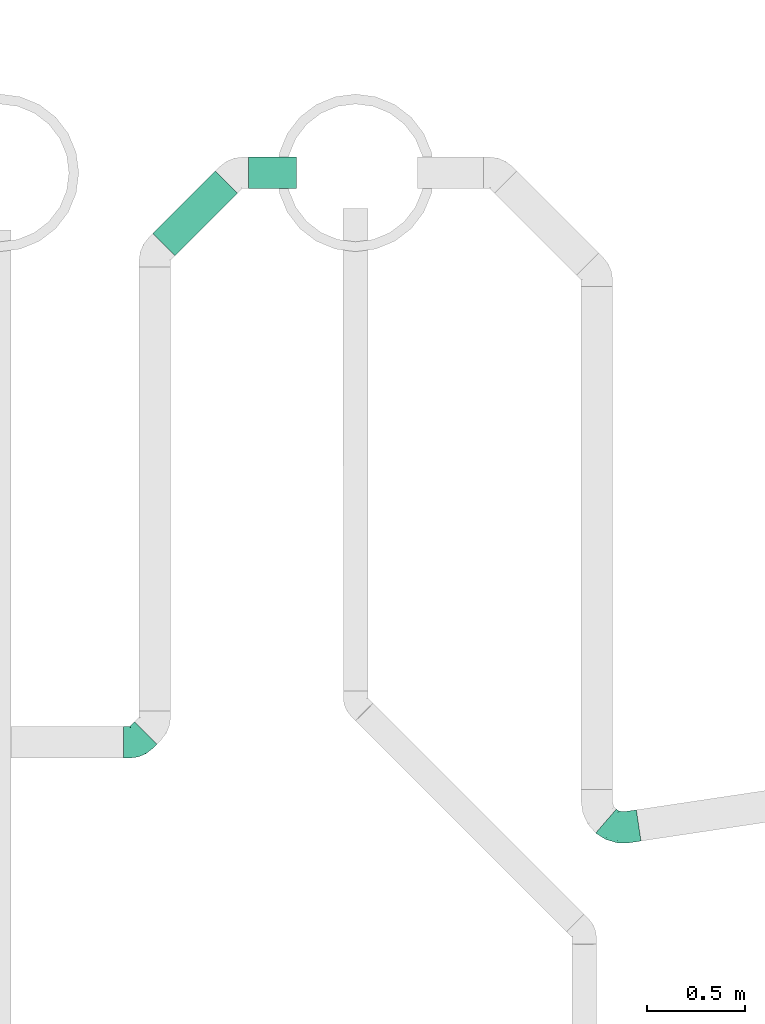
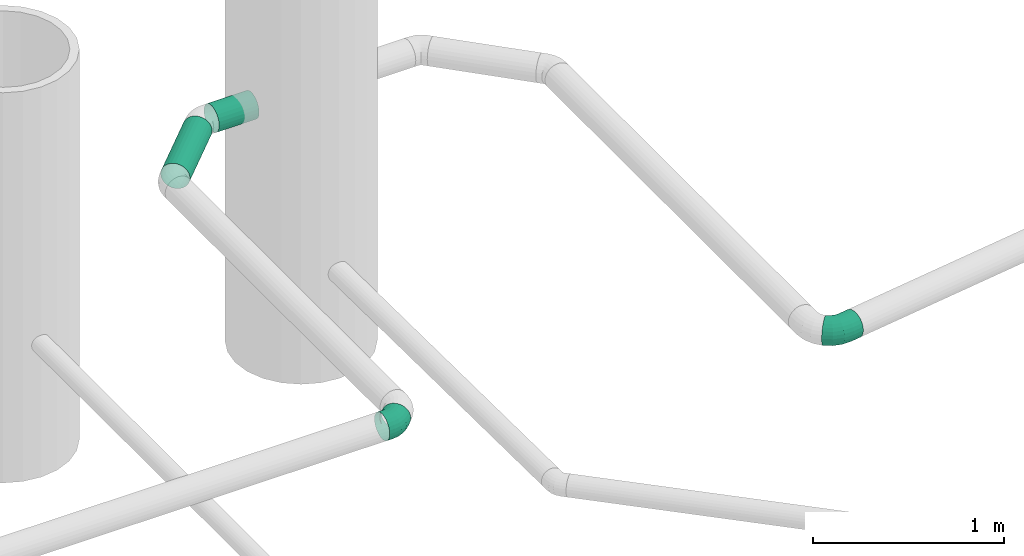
# One storey, part 308 of 374: 2 flow fittings, 2 flow segments.
"""IFC2X3 building model written with IfcOpenShell, lengths in metres."""

from ifc_helpers import new_model, si_unit, direction, origin, place, context, subcontext, project, spatial, open_shell, surface_model, source, transform, mapped, element, save


model = new_model("IFC2X3")

# Units and contexts
model_context = context("Model", 3, precision=1e-05, world=origin(), true_north=direction((-0.4480736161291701, 0.8939966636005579)))
body_context = subcontext(model_context, "Body", "Model", "MODEL_VIEW")
ifc_project = project(units=[si_unit("LENGTHUNIT", "METRE"), si_unit("AREAUNIT", "SQUARE_METRE"), si_unit("VOLUMEUNIT", "CUBIC_METRE"), si_unit("PLANEANGLEUNIT", "RADIAN"), si_unit("THERMODYNAMICTEMPERATUREUNIT", "KELVIN"), si_unit("MASSUNIT", "GRAM", prefix="KILO"), si_unit("TIMEUNIT", "SECOND")], contexts=[model_context])

# Site, building, storey
site_placement = place(None, origin())
site = spatial("IfcSite", under=ifc_project, at=site_placement, Name="Site 1", CompositionType="ELEMENT")
building_placement = place(site_placement, origin())
building = spatial("IfcBuilding", under=site, at=building_placement, Name="Undefined", CompositionType="ELEMENT")
storey_placement = place(building_placement, origin())
storey = spatial("IfcBuildingStorey", under=building, at=storey_placement, Name="Rez de chauss\x8ee", CompositionType="ELEMENT", Elevation=0.0)

# Flow segments
shared_shape_1 = source(origin(), body_context, "Body", "SurfaceModel", [
    surface_model("IfcFaceBasedSurfaceModel", [(0.0, 0.020884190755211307, 0.0), (0.0, 0.0, 0.0), (0.24247162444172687, -3.552713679e-15, -4.4408921e-16), (0.24247162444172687, 0.0208841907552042, -8.8817842e-16), (0.0, -0.020172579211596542, -0.005405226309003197), (0.24247162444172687, -0.020172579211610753, -0.005405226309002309), (0.0, -0.03825881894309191, -0.015847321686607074), (0.24247162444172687, -0.038258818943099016, -0.015847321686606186), (0.0, -0.05302617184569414, -0.0306146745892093), (0.24247162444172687, -0.05302617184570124, -0.03061467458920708), (0.0, -0.06346826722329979, -0.04870091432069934), (0.24247162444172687, -0.06346826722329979, -0.04870091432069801), (0.0, -0.06887349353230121, -0.06887349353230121), (0.24247162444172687, -0.06887349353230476, -0.06887349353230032), (0.0, -0.06887349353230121, -0.08975768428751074), (0.24247162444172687, -0.06887349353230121, -0.08975768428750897), (0.0, -0.06346826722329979, -0.10993026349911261), (0.24247162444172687, -0.0634682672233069, -0.10993026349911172), (0.0, -0.05302617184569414, -0.12801650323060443), (0.24247162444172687, -0.05302617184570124, -0.12801650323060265), (0.0, -0.038258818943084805, -0.14278385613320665), (0.24247162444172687, -0.038258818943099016, -0.142783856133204), (0.0, -0.020172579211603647, -0.15322595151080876), (0.24247162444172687, -0.0201725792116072, -0.15322595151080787), (0.0, 7.105427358e-15, -0.15863117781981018), (0.24247162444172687, -7.105427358e-15, -0.15863117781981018), (0.0, 0.020884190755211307, -0.15863117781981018), (0.24247162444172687, 0.0208841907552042, -0.15863117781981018), (0.0, 0.04105676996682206, -0.15322595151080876), (0.24247162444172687, 0.04105676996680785, -0.15322595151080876), (0.0, 0.05914300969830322, -0.1427838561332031), (0.24247162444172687, 0.05914300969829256, -0.142783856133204), (0.0, 0.07391036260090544, -0.12801650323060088), (0.24247162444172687, 0.07391036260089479, -0.12801650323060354), (0.0, 0.0843524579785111, -0.10993026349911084), (0.24247162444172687, 0.08435245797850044, -0.1099302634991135), (0.0, 0.08975768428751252, -0.08975768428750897), (0.24247162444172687, 0.08975768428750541, -0.08975768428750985), (0.0, 0.08975768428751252, -0.06887349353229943), (0.24247162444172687, 0.08975768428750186, -0.0688734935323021), (0.0, 0.0843524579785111, -0.048700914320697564), (0.24247162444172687, 0.08435245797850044, -0.048700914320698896), (0.0, 0.07391036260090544, -0.030614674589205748), (0.24247162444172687, 0.07391036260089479, -0.03061467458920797), (0.0, 0.05914300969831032, -0.015847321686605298), (0.24247162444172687, 0.05914300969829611, -0.015847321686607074), (0.0, 0.04105676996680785, -0.005405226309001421), (0.24247162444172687, 0.04105676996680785, -0.005405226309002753)], [open_shell([[[0, 1, 2, 3]], [[1, 4, 5, 2]], [[4, 6, 7, 5]], [[6, 8, 9, 7]], [[8, 10, 11, 9]], [[10, 12, 13, 11]], [[12, 14, 15, 13]], [[14, 16, 17, 15]], [[16, 18, 19, 17]], [[18, 20, 21, 19]], [[20, 22, 23, 21]], [[22, 24, 25, 23]], [[24, 26, 27, 25]], [[26, 28, 29, 27]], [[28, 30, 31, 29]], [[30, 32, 33, 31]], [[32, 34, 35, 33]], [[34, 36, 37, 35]], [[36, 38, 39, 37]], [[38, 40, 41, 39]], [[40, 42, 43, 41]], [[42, 44, 45, 43]], [[44, 46, 47, 45]], [[46, 0, 3, 47]]])]),
])
flow_segment_1_placement = place(storey_placement, origin())
element("IfcFlowSegment", 1, at=flow_segment_1_placement, inside=storey, Name="PE-HD tuyau", ObjectType="PE-HD tuyau", context=body_context, shape_type="MappedRepresentation", body=[
    mapped(shared_shape_1, transform((36.711493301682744, 28.022144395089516, -0.7163137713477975), x_axis=(-1.0, 0.0, 0.0), y_axis=(7.266545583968e-12, -0.9914448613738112, 0.13052619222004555), z_axis=(0.0, 0.13052619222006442, 0.9914448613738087))),
])
shared_shape_2 = source(origin(), body_context, "Body", "SurfaceModel", [
    surface_model("IfcFaceBasedSurfaceModel", [(0.4491595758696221, -8.8817842e-16, -6.66133815e-16), (0.4491595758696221, 0.020884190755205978, 2.22044605e-16), (0.0, 0.020884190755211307, 0.0), (0.0, 0.0, 0.0), (0.4491595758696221, 0.04105676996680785, -0.005405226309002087), (0.0, 0.04105676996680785, -0.005405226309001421), (0.4491595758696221, 0.05914300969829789, -0.01584732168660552), (0.0, 0.05914300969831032, -0.015847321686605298), (0.4491595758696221, 0.07391036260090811, -0.030614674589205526), (0.0, 0.07391036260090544, -0.030614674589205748), (0.4491595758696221, 0.08435245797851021, -0.04870091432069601), (0.0, 0.0843524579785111, -0.048700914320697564), (0.4491595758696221, 0.08975768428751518, -0.06887349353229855), (0.0, 0.08975768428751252, -0.06887349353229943), (0.4491595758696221, 0.08975768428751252, -0.08975768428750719), (0.0, 0.08975768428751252, -0.08975768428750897), (0.4491595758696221, 0.08435245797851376, -0.10993026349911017), (0.0, 0.0843524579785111, -0.10993026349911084), (0.4491595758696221, 0.07391036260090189, -0.12801650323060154), (0.0, 0.07391036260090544, -0.12801650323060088), (0.4491595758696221, 0.05914300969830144, -0.14278385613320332), (0.0, 0.05914300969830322, -0.1427838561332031), (0.4491595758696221, 0.04105676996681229, -0.1532259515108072), (0.0, 0.04105676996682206, -0.15322595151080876), (0.4491595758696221, 0.020884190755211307, -0.15863117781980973), (0.0, 0.020884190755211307, -0.15863117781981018), (0.4491595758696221, 8.8817842e-16, -0.1586311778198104), (0.0, 7.105427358e-15, -0.15863117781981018), (0.4491595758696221, -0.02017257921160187, -0.15322595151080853), (0.0, -0.020172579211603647, -0.15322595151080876), (0.4491595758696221, -0.03825881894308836, -0.1427838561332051), (0.0, -0.038258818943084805, -0.14278385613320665), (0.4491595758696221, -0.05302617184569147, -0.12801650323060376), (0.0, -0.05302617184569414, -0.12801650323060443), (0.4491595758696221, -0.06346826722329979, -0.10993026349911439), (0.0, -0.06346826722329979, -0.10993026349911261), (0.4491595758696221, -0.06887349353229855, -0.08975768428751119), (0.0, -0.06887349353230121, -0.08975768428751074), (0.4491595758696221, -0.06887349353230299, -0.06887349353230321), (0.0, -0.06887349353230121, -0.06887349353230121), (0.4491595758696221, -0.06346826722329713, -0.04870091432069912), (0.0, -0.06346826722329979, -0.04870091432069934), (0.4491595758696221, -0.05302617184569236, -0.03061467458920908), (0.0, -0.05302617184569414, -0.0306146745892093), (0.4491595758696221, -0.03825881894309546, -0.015847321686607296), (0.0, -0.03825881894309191, -0.015847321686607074), (0.4491595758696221, -0.020172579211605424, -0.005405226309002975), (0.0, -0.020172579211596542, -0.005405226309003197)], [open_shell([[[0, 1, 2, 3]], [[1, 4, 5, 2]], [[4, 6, 7, 5]], [[6, 8, 9, 7]], [[8, 10, 11, 9]], [[10, 12, 13, 11]], [[12, 14, 15, 13]], [[14, 16, 17, 15]], [[16, 18, 19, 17]], [[18, 20, 21, 19]], [[20, 22, 23, 21]], [[22, 24, 25, 23]], [[24, 26, 27, 25]], [[26, 28, 29, 27]], [[28, 30, 31, 29]], [[30, 32, 33, 31]], [[32, 34, 35, 33]], [[34, 36, 37, 35]], [[36, 38, 39, 37]], [[38, 40, 41, 39]], [[40, 42, 43, 41]], [[42, 44, 45, 43]], [[44, 46, 47, 45]], [[46, 0, 3, 47]]])]),
])
flow_segment_2_placement = place(storey_placement, origin())
element("IfcFlowSegment", 2, at=flow_segment_2_placement, inside=storey, Name="PE-HD tuyau", ObjectType="PE-HD tuyau", context=body_context, shape_type="MappedRepresentation", body=[
    mapped(shared_shape_2, transform((36.03891955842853, 27.63723675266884, -0.713587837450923), x_axis=(0.7071067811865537, 0.7071067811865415, -8.5491534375e-14), y_axis=(-0.7010573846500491, 0.7010573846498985, -0.13052619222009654), z_axis=(-0.09229595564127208, 0.09229595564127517, 0.9914448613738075))),
])

# Flow fittings
shared_shape_3 = source(origin(), body_context, "Body", "SurfaceModel", [
    surface_model("IfcFaceBasedSurfaceModel", [(0.03280000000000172, -3.552713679e-15, -4.4408921e-16), (0.03280000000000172, 0.0208841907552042, -8.8817842e-16), (0.0, 0.020884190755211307, 0.0), (0.0, 0.0, 0.0), (0.03280000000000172, 0.04105676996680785, -0.005405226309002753), (0.0, 0.04105676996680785, -0.005405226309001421), (0.03280000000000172, 0.05914300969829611, -0.015847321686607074), (0.0, 0.05914300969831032, -0.015847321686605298), (0.03280000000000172, 0.07391036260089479, -0.03061467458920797), (0.0, 0.07391036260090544, -0.030614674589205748), (0.03280000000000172, 0.08435245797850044, -0.048700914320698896), (0.0, 0.0843524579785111, -0.048700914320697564), (0.03280000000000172, 0.08975768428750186, -0.0688734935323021), (0.0, 0.08975768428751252, -0.06887349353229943), (0.03280000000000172, 0.08975768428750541, -0.08975768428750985), (0.0, 0.08975768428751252, -0.08975768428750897), (0.03280000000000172, 0.08435245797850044, -0.1099302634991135), (0.0, 0.0843524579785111, -0.10993026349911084), (0.03280000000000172, 0.07391036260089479, -0.12801650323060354), (0.0, 0.07391036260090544, -0.12801650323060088), (0.03280000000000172, 0.05914300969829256, -0.142783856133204), (0.0, 0.05914300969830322, -0.1427838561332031), (0.03280000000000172, 0.04105676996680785, -0.15322595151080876), (0.0, 0.04105676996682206, -0.15322595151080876), (0.03280000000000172, 0.0208841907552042, -0.15863117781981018), (0.0, 0.020884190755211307, -0.15863117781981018), (0.03280000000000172, -7.105427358e-15, -0.15863117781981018), (0.0, 7.105427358e-15, -0.15863117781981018), (0.03280000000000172, -0.0201725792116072, -0.15322595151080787), (0.0, -0.020172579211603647, -0.15322595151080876), (0.03280000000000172, -0.038258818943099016, -0.142783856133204), (0.0, -0.038258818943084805, -0.14278385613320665), (0.03280000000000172, -0.05302617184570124, -0.12801650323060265), (0.0, -0.05302617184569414, -0.12801650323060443), (0.03280000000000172, -0.0634682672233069, -0.10993026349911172), (0.0, -0.06346826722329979, -0.10993026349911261), (0.03280000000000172, -0.06887349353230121, -0.08975768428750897), (0.0, -0.06887349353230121, -0.08975768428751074), (0.03280000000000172, -0.06887349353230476, -0.06887349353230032), (0.0, -0.06887349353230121, -0.06887349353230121), (0.03280000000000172, -0.06346826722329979, -0.04870091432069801), (0.0, -0.06346826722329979, -0.04870091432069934), (0.03280000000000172, -0.05302617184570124, -0.03061467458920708), (0.0, -0.05302617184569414, -0.0306146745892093), (0.03280000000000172, -0.038258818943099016, -0.015847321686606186), (0.0, -0.03825881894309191, -0.015847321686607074), (0.03280000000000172, -0.020172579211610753, -0.005405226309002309), (0.0, -0.020172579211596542, -0.005405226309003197), (-0.04070552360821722, 0.0844445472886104, -0.09045717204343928), (-0.041411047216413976, 0.08435245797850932, -0.0695851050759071), (-0.07863703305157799, 0.06886721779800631, -0.09250796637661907), (-0.0800000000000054, 0.06850513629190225, -0.07167144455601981), (-0.11120955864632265, 0.0440872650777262, -0.09577030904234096), (-0.11313708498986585, 0.043295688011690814, -0.07499033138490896), (-0.03863703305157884, 0.07930931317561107, -0.11059420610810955), (-0.0746410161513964, 0.06452356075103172, -0.11254078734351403), (-0.10555833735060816, 0.04100282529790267, -0.11563735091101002), (-0.035346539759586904, 0.0692967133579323, -0.12862390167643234), (-0.06828427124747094, 0.055770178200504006, -0.1304047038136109), (-0.09656854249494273, 0.034252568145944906, -0.13323755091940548), (-0.03105828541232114, 0.05508908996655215, -0.14331756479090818), (-0.06000000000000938, 0.04320359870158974, -0.1448823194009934), (-0.08485281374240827, 0.024296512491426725, -0.14737148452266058), (-0.02606450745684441, 0.03765466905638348, -0.1536738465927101), (-0.0503527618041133, 0.02768021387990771, -0.1549870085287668), (-0.0712095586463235, 0.011813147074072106, -0.15707594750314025), (-0.020705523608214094, 0.018181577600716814, -0.1589869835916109), (-0.04000000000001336, 0.010257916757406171, -0.1600301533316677), (-0.05656854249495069, -0.002346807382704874, -0.16168959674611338), (-0.015346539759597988, -0.002003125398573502, -0.1588948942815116), (-0.029647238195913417, -0.007875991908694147, -0.1596680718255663), (-0.04192752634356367, -0.017218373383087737, -0.16089801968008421), (-0.010352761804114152, -0.02152388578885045, -0.15340385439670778), (-0.020000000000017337, -0.02548571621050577, -0.15392543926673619), (-0.02828427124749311, -0.031788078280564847, -0.15475516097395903), (-0.006064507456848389, -0.0390503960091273, -0.14288806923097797), (-0.011715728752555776, -0.041371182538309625, -0.14319360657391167), (-0.01656854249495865, -0.04506302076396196, -0.14367964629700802), (-0.002774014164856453, -0.05338825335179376, -0.12806417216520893), (-0.005358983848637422, -0.05444982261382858, -0.12820393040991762), (-0.007578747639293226, -0.056138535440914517, -0.12842625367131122), (-0.0007055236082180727, -0.06356035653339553, -0.10994238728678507), (-0.0013629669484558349, -0.06383034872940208, -0.1099779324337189), (-0.0019275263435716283, -0.0642598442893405, -0.11003447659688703), (-0.0007055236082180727, -0.06896558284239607, -0.06888561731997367), (-0.0013629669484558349, -0.06923557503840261, -0.06892116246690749), (-0.0019275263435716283, -0.06966507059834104, -0.06897770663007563), (-0.002774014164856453, -0.06383034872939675, -0.048748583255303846), (-0.005358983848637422, -0.06489191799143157, -0.04888834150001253), (-0.007578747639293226, -0.0665806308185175, -0.04911066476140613), (-0.006064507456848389, -0.05381774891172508, -0.030718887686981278), (-0.011715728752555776, -0.05613853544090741, -0.03102442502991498), (-0.01656854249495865, -0.059830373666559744, -0.031510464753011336), (-0.010352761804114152, -0.039610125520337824, -0.016025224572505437), (-0.020000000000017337, -0.043571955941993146, -0.01654680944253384), (-0.02828427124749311, -0.04987431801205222, -0.01737653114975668), (-0.015346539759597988, -0.02217570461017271, -0.005668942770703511), (-0.029647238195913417, -0.028048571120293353, -0.006442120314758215), (-0.04192752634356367, -0.037390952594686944, -0.007672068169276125), (-0.020705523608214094, -0.002702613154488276, -0.00035580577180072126), (-0.04000000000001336, -0.010626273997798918, -0.0013989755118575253), (-0.05656854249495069, -0.023230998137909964, -0.003058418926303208), (-0.02606450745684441, 0.017482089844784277, -0.00044789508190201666), (-0.0503527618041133, 0.007507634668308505, -0.0017610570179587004), (-0.0712095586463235, -0.0083594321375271, -0.003849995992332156), (-0.03105828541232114, 0.03700285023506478, -0.005938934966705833), (-0.06000000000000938, 0.025117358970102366, -0.007503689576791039), (-0.08485281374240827, 0.00621027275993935, -0.009992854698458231), (-0.035346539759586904, 0.05452936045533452, -0.016454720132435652), (-0.06828427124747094, 0.04100282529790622, -0.018235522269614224), (-0.09656854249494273, 0.01948521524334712, -0.02106836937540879), (-0.03863703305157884, 0.06886721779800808, -0.03127861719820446), (-0.0746410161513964, 0.05408146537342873, -0.03322519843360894), (-0.10555833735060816, 0.03056072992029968, -0.03632176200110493), (-0.04070552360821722, 0.07903932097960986, -0.04940040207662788), (-0.07863703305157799, 0.06346199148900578, -0.051451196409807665), (-0.11120955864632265, 0.03868203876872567, -0.05471353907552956), (-0.13440266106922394, 0.02109258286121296, -0.0987976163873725), (-0.13633018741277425, 0.02030100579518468, -0.07801763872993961), (-0.12875143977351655, 0.018008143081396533, -0.11866465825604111), (-0.11976164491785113, 0.011257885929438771, -0.13626485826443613), (-0.10804591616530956, 0.0013018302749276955, -0.15039879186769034), (-0.0944026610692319, -0.011181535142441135, -0.16010325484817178), (-0.07976164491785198, -0.02534148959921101, -0.16471690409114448), (-0.06512062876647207, -0.04021305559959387, -0.16392532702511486), (-0.051477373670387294, -0.054782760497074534, -0.15778246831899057), (-0.039761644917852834, -0.06805770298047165, -0.14670695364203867), (-0.03077185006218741, -0.0791332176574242, -0.1314535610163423), (-0.025120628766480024, -0.08725452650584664, -0.11306178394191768), (-0.023193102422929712, -0.09186817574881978, -0.09278499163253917), (-0.025120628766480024, -0.09265975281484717, -0.07200501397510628), (-0.03077185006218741, -0.0895753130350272, -0.052137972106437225), (-0.039761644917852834, -0.08282505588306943, -0.034537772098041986), (-0.051477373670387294, -0.07286900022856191, -0.020403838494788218), (-0.06512062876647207, -0.06038563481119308, -0.010699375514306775), (-0.07976164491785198, -0.0462256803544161, -0.006085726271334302), (-0.0944026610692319, -0.03135411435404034, -0.006877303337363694), (-0.10804591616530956, -0.01678440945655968, -0.013020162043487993), (-0.11976164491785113, -0.0035094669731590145, -0.02409567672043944), (-0.12875143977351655, 0.007566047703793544, -0.03934906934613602), (-0.13440266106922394, 0.015687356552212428, -0.0577408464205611)], [open_shell([[[0, 1, 2, 3]], [[1, 4, 5, 2]], [[4, 6, 7, 5]], [[6, 8, 9, 7]], [[8, 10, 11, 9]], [[10, 12, 13, 11]], [[12, 14, 15, 13]], [[14, 16, 17, 15]], [[16, 18, 19, 17]], [[18, 20, 21, 19]], [[20, 22, 23, 21]], [[22, 24, 25, 23]], [[24, 26, 27, 25]], [[26, 28, 29, 27]], [[28, 30, 31, 29]], [[30, 32, 33, 31]], [[32, 34, 35, 33]], [[34, 36, 37, 35]], [[36, 38, 39, 37]], [[38, 40, 41, 39]], [[40, 42, 43, 41]], [[42, 44, 45, 43]], [[44, 46, 47, 45]], [[46, 0, 3, 47]], [[13, 15, 48, 49]], [[49, 48, 50, 51]], [[51, 50, 52, 53]], [[15, 17, 54, 48]], [[48, 54, 55, 50]], [[50, 55, 56, 52]], [[17, 19, 57, 54]], [[54, 57, 58, 55]], [[55, 58, 59, 56]], [[19, 21, 60, 57]], [[57, 60, 61, 58]], [[58, 61, 62, 59]], [[21, 23, 63, 60]], [[60, 63, 64, 61]], [[61, 64, 65, 62]], [[23, 25, 66, 63]], [[63, 66, 67, 64]], [[64, 67, 68, 65]], [[25, 27, 69, 66]], [[66, 69, 70, 67]], [[67, 70, 71, 68]], [[27, 29, 72, 69]], [[69, 72, 73, 70]], [[70, 73, 74, 71]], [[29, 31, 75, 72]], [[72, 75, 76, 73]], [[73, 76, 77, 74]], [[31, 33, 78, 75]], [[75, 78, 79, 76]], [[76, 79, 80, 77]], [[33, 35, 81, 78]], [[78, 81, 82, 79]], [[79, 82, 83, 80]], [[35, 37, 81]], [[81, 37, 82]], [[82, 37, 83]], [[37, 39, 84]], [[37, 84, 85]], [[37, 85, 86]], [[39, 41, 87, 84]], [[84, 87, 88, 85]], [[85, 88, 89, 86]], [[41, 43, 90, 87]], [[87, 90, 91, 88]], [[88, 91, 92, 89]], [[43, 45, 93, 90]], [[90, 93, 94, 91]], [[91, 94, 95, 92]], [[45, 47, 96, 93]], [[93, 96, 97, 94]], [[94, 97, 98, 95]], [[47, 3, 99, 96]], [[96, 99, 100, 97]], [[97, 100, 101, 98]], [[3, 2, 102, 99]], [[99, 102, 103, 100]], [[100, 103, 104, 101]], [[2, 5, 105, 102]], [[102, 105, 106, 103]], [[103, 106, 107, 104]], [[5, 7, 108, 105]], [[105, 108, 109, 106]], [[106, 109, 110, 107]], [[7, 9, 111, 108]], [[108, 111, 112, 109]], [[109, 112, 113, 110]], [[9, 11, 114, 111]], [[111, 114, 115, 112]], [[112, 115, 116, 113]], [[11, 13, 49, 114]], [[114, 49, 51, 115]], [[115, 51, 53, 116]], [[53, 52, 117, 118]], [[52, 56, 119, 117]], [[56, 59, 120, 119]], [[59, 62, 121, 120]], [[62, 65, 122, 121]], [[65, 68, 123, 122]], [[68, 71, 124, 123]], [[71, 74, 125, 124]], [[74, 77, 126, 125]], [[77, 80, 127, 126]], [[80, 83, 128, 127]], [[83, 37, 129, 128]], [[37, 86, 130, 129]], [[86, 89, 131, 130]], [[89, 92, 132, 131]], [[92, 95, 133, 132]], [[95, 98, 134, 133]], [[98, 101, 135, 134]], [[101, 104, 136, 135]], [[104, 107, 137, 136]], [[107, 110, 138, 137]], [[110, 113, 139, 138]], [[113, 116, 140, 139]], [[116, 53, 118, 140]]])]),
])
flow_fitting_1_placement = place(storey_placement, origin())
element("IfcFlowFitting", 3, at=flow_fitting_1_placement, inside=storey, Name="PE-HD coude 45°", ObjectType="PE-HD coude 45°", context=body_context, shape_type="MappedRepresentation", body=[
    mapped(shared_shape_3, transform((35.922529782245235, 25.133461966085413, -0.8735878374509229), x_axis=(0.7071067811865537, 0.7071067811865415, -8.5491534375e-14), y_axis=(0.7010573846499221, -0.7010573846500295, 0.13052619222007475), z_axis=(0.09229595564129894, -0.09229595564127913, -0.9914448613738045))),
])
shared_shape_4 = source(origin(), body_context, "Body", "SurfaceModel", [
    surface_model("IfcFaceBasedSurfaceModel", [(0.0, 0.020884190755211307, 0.0), (0.0, 0.0, 0.0), (0.06000000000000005, 8.8817842e-16, 0.0), (0.060000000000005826, 0.02088419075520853, 0.0), (0.0, -0.020172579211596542, -0.005405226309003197), (0.060000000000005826, -0.020172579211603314, -0.005405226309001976), (0.0, -0.03825881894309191, -0.015847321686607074), (0.060000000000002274, -0.03825881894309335, -0.015847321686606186), (0.0, -0.05302617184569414, -0.0306146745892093), (0.060000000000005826, -0.05302617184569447, -0.030614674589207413), (0.0, -0.06346826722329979, -0.04870091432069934), (0.060000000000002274, -0.06346826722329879, -0.04870091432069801), (0.0, -0.06887349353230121, -0.06887349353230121), (0.060000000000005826, -0.06887349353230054, -0.06887349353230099), (0.0, -0.06887349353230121, -0.08975768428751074), (0.060000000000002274, -0.06887349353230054, -0.08975768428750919), (0.0, -0.06346826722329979, -0.10993026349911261), (0.060000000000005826, -0.06346826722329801, -0.10993026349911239), (0.0, -0.05302617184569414, -0.12801650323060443), (0.060000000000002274, -0.05302617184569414, -0.12801650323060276), (0.0, -0.038258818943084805, -0.14278385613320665), (0.060000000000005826, -0.03825881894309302, -0.14278385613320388), (0.0, -0.020172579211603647, -0.15322595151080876), (0.060000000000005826, -0.020172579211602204, -0.15322595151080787), (0.0, 7.105427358e-15, -0.15863117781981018), (0.060000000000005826, 8.8817842e-16, -0.15863117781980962), (0.0, 0.020884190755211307, -0.15863117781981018), (0.060000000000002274, 0.020884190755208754, -0.1586311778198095), (0.0, 0.04105676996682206, -0.15322595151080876), (0.060000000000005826, 0.041056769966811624, -0.15322595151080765), (0.0, 0.05914300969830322, -0.1427838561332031), (0.060000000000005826, 0.05914300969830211, -0.14278385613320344), (0.0, 0.07391036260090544, -0.12801650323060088), (0.060000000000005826, 0.073910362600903, -0.12801650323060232), (0.0, 0.0843524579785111, -0.10993026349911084), (0.060000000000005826, 0.0843524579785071, -0.10993026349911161), (0.0, 0.08975768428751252, -0.08975768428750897), (0.060000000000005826, 0.08975768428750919, -0.08975768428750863), (0.0, 0.08975768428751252, -0.06887349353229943), (0.060000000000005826, 0.08975768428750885, -0.06887349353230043), (0.0, 0.0843524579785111, -0.048700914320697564), (0.060000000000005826, 0.08435245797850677, -0.04870091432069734), (0.0, 0.07391036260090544, -0.030614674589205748), (0.060000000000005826, 0.07391036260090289, -0.03061467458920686), (0.0, 0.05914300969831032, -0.015847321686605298), (0.060000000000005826, 0.05914300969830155, -0.015847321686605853), (0.0, 0.04105676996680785, -0.005405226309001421), (0.060000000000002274, 0.04105676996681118, -0.005405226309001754), (0.11951005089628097, -0.06036036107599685, -0.09087845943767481), (0.1202806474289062, -0.060250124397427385, -0.07000878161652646), (0.1741654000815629, -0.0355154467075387, -0.0941493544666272), (0.17564372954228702, -0.03508349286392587, -0.07332203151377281), (0.21950738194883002, 0.0036344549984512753, -0.09930353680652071), (0.22157284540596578, 0.004573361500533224, -0.07854295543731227), (0.11725077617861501, -0.05527833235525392, -0.11100848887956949), (0.16983115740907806, -0.03137664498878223, -0.11415520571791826), (0.21345174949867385, 0.0062869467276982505, -0.11911371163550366), (0.11365678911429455, -0.0453503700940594, -0.1290270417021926), (0.16293637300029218, -0.02294914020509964, -0.13197621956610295), (0.20381862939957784, 0.012350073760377, -0.13662344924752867), (0.108973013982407, -0.031253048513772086, -0.14370618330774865), (0.15395091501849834, -0.010807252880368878, -0.14639792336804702), (0.19126450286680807, 0.021410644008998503, -0.15063948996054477), (0.10351864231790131, -0.013947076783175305, -0.1540455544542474), (0.14348712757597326, 0.004221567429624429, -0.15643750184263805), (0.17664491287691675, 0.03285119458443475, -0.1602066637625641), (0.09766538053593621, 0.005388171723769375, -0.15934054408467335), (0.13225810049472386, 0.021113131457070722, -0.16141077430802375), (0.1609561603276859, 0.04589207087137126, -0.164672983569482), (0.09181211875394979, 0.02543503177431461, -0.1592303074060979), (0.12102907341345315, 0.03871630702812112, -0.16097882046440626), (0.14526740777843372, 0.05964455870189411, -0.16373407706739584), (0.0863577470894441, 0.04482734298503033, -0.15372235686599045), (0.11056528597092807, 0.055831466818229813, -0.15517107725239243), (0.1306478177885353, 0.07317144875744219, -0.15745392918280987), (0.08167397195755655, 0.06224355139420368, -0.14319205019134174), (0.10157982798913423, 0.07129224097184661, -0.1443833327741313), (0.11809369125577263, 0.08555090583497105, -0.14626052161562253), (0.0780799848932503, 0.07649677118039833, -0.12835701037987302), (0.09468504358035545, 0.08404500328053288, -0.12935075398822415), (0.10846057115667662, 0.09593929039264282, -0.13091666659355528), (0.07582071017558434, 0.08661566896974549, -0.11022822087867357), (0.09035080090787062, 0.09322067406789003, -0.11109778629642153), (0.10240493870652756, 0.10362865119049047, -0.1124680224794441), (0.0750501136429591, 0.09191065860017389, -0.09004112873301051), (0.0888724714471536, 0.09819394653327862, -0.09086833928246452), (0.1003394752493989, 0.1080949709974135, -0.09217183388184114), (0.07582071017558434, 0.09202089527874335, -0.06917145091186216), (0.09035080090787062, 0.0986259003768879, -0.07004101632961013), (0.10240493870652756, 0.10903387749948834, -0.0714112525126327), (0.0780799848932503, 0.08693886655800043, -0.04904142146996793), (0.09468504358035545, 0.09448709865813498, -0.050035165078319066), (0.10846057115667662, 0.10638138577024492, -0.05160107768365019), (0.08167397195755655, 0.07701090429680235, -0.031022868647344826), (0.10157982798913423, 0.08605959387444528, -0.03221415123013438), (0.11809369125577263, 0.10031825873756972, -0.03409134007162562), (0.0863577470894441, 0.06291358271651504, -0.01634372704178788), (0.11056528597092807, 0.07391770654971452, -0.01779244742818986), (0.1306478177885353, 0.0912576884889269, -0.0200752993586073), (0.09181211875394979, 0.045607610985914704, -0.0060043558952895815), (0.12102907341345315, 0.058888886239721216, -0.007752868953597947), (0.14526740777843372, 0.07981713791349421, -0.010508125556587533), (0.09766538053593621, 0.026272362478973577, -0.000709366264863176), (0.13225810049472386, 0.04199732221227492, -0.002779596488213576), (0.1609561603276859, 0.06677626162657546, -0.006041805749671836), (0.10351864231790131, 0.0062255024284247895, -0.0008196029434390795), (0.14348712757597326, 0.024394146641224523, -0.003211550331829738), (0.17664491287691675, 0.053023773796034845, -0.006980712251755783), (0.108973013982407, -0.013166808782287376, -0.0063275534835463), (0.15395091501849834, 0.007278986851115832, -0.009019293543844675), (0.19126450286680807, 0.03949688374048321, -0.013260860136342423), (0.11365678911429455, -0.030583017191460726, -0.01685786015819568), (0.16293637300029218, -0.008181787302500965, -0.019807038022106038), (0.20381862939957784, 0.027117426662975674, -0.024454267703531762), (0.11725077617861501, -0.04483623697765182, -0.0316928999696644), (0.16983115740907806, -0.02093454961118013, -0.034839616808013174), (0.21345174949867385, 0.01672904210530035, -0.03979812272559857), (0.11951005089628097, -0.05495513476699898, -0.049821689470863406), (0.1741654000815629, -0.030110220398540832, -0.0530925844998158), (0.21950738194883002, 0.009039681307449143, -0.05824676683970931)], [open_shell([[[0, 1, 2, 3]], [[1, 4, 5, 2]], [[4, 6, 7, 5]], [[6, 8, 9, 7]], [[8, 10, 11, 9]], [[10, 12, 13, 11]], [[12, 14, 15, 13]], [[14, 16, 17, 15]], [[16, 18, 19, 17]], [[18, 20, 21, 19]], [[20, 22, 23, 21]], [[22, 24, 25, 23]], [[24, 26, 27, 25]], [[26, 28, 29, 27]], [[28, 30, 31, 29]], [[30, 32, 33, 31]], [[32, 34, 35, 33]], [[34, 36, 37, 35]], [[36, 38, 39, 37]], [[38, 40, 41, 39]], [[40, 42, 43, 41]], [[42, 44, 45, 43]], [[44, 46, 47, 45]], [[46, 0, 3, 47]], [[13, 15, 48, 49]], [[49, 48, 50, 51]], [[51, 50, 52, 53]], [[15, 17, 54, 48]], [[48, 54, 55, 50]], [[50, 55, 56, 52]], [[17, 19, 57, 54]], [[54, 57, 58, 55]], [[55, 58, 59, 56]], [[19, 21, 60, 57]], [[57, 60, 61, 58]], [[58, 61, 62, 59]], [[21, 23, 63, 60]], [[60, 63, 64, 61]], [[61, 64, 65, 62]], [[23, 25, 66, 63]], [[63, 66, 67, 64]], [[64, 67, 68, 65]], [[25, 27, 69, 66]], [[66, 69, 70, 67]], [[67, 70, 71, 68]], [[27, 29, 72, 69]], [[69, 72, 73, 70]], [[70, 73, 74, 71]], [[29, 31, 75, 72]], [[72, 75, 76, 73]], [[73, 76, 77, 74]], [[31, 33, 78, 75]], [[75, 78, 79, 76]], [[76, 79, 80, 77]], [[33, 35, 81, 78]], [[78, 81, 82, 79]], [[79, 82, 83, 80]], [[35, 37, 84, 81]], [[81, 84, 85, 82]], [[82, 85, 86, 83]], [[37, 39, 87, 84]], [[84, 87, 88, 85]], [[85, 88, 89, 86]], [[39, 41, 90, 87]], [[87, 90, 91, 88]], [[88, 91, 92, 89]], [[41, 43, 93, 90]], [[90, 93, 94, 91]], [[91, 94, 95, 92]], [[43, 45, 96, 93]], [[93, 96, 97, 94]], [[94, 97, 98, 95]], [[45, 47, 99, 96]], [[96, 99, 100, 97]], [[97, 100, 101, 98]], [[47, 3, 102, 99]], [[99, 102, 103, 100]], [[100, 103, 104, 101]], [[3, 2, 105, 102]], [[102, 105, 106, 103]], [[103, 106, 107, 104]], [[2, 5, 108, 105]], [[105, 108, 109, 106]], [[106, 109, 110, 107]], [[5, 7, 111, 108]], [[108, 111, 112, 109]], [[109, 112, 113, 110]], [[7, 9, 114, 111]], [[111, 114, 115, 112]], [[112, 115, 116, 113]], [[9, 11, 117, 114]], [[114, 117, 118, 115]], [[115, 118, 119, 116]], [[11, 13, 49, 117]], [[117, 49, 51, 118]], [[118, 51, 53, 119]]])]),
])
flow_fitting_2_placement = place(storey_placement, origin())
element("IfcFlowFitting", 4, at=flow_fitting_2_placement, inside=storey, Name="PE-HD coude 90° à grand rayon", ObjectType="PE-HD coude 90° à grand rayon", context=body_context, shape_type="MappedRepresentation", body=[
    mapped(shared_shape_4, transform((38.45227449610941, 24.66719301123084, -0.8708619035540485), x_axis=(-0.9889507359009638, -0.14824453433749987, 0.0), y_axis=(-0.14697628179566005, 0.9804901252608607, -0.1305261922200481), z_axis=(0.0193497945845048, -0.12908397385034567, -0.9914448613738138))),
])

save(model, "model.ifc")
